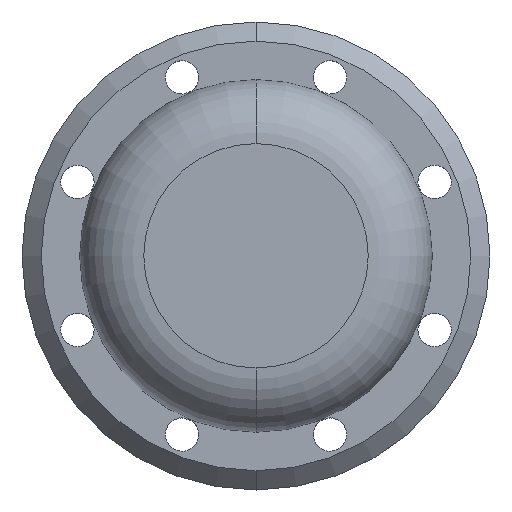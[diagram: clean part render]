
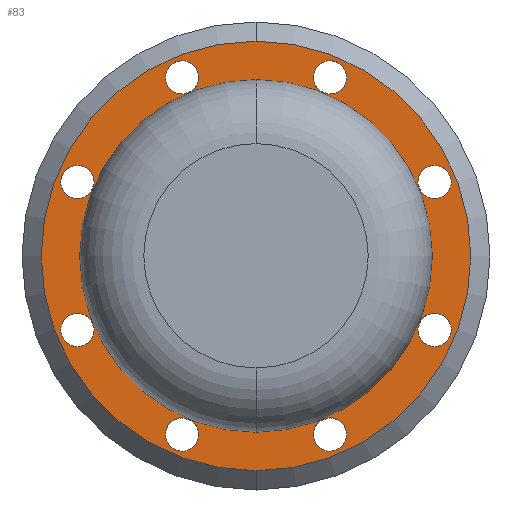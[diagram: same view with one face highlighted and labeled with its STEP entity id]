
A CAD part, top view. The second image highlights one B-rep face of the part: STEP entity #83.
In plain terms, the highlighted planar face has unit normal (0, 0, 1).
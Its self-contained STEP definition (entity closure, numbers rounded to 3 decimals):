
#27=FACE_BOUND('',#209,.F.);
#28=FACE_BOUND('',#210,.F.);
#29=FACE_BOUND('',#211,.F.);
#30=FACE_BOUND('',#212,.F.);
#31=FACE_BOUND('',#213,.F.);
#32=FACE_BOUND('',#214,.F.);
#33=FACE_BOUND('',#215,.F.);
#34=FACE_BOUND('',#216,.F.);
#35=FACE_BOUND('',#217,.F.);
#41=PLANE('',#1267);
#83=ADVANCED_FACE('',(#27,#28,#29,#30,#31,#32,#33,#34,#35,#146),#41,.T.);
#146=FACE_OUTER_BOUND('',#218,.F.);
#209=EDGE_LOOP('',(#347,#348));
#210=EDGE_LOOP('',(#349,#350));
#211=EDGE_LOOP('',(#351,#352));
#212=EDGE_LOOP('',(#353,#354));
#213=EDGE_LOOP('',(#355,#356));
#214=EDGE_LOOP('',(#357,#358));
#215=EDGE_LOOP('',(#359,#360));
#216=EDGE_LOOP('',(#361,#362));
#217=EDGE_LOOP('',(#363,#364));
#218=EDGE_LOOP('',(#365,#366));
#347=ORIENTED_EDGE('',*,*,#751,.T.);
#348=ORIENTED_EDGE('',*,*,#748,.T.);
#349=ORIENTED_EDGE('',*,*,#765,.T.);
#350=ORIENTED_EDGE('',*,*,#762,.T.);
#351=ORIENTED_EDGE('',*,*,#779,.T.);
#352=ORIENTED_EDGE('',*,*,#776,.T.);
#353=ORIENTED_EDGE('',*,*,#793,.T.);
#354=ORIENTED_EDGE('',*,*,#790,.T.);
#355=ORIENTED_EDGE('',*,*,#867,.T.);
#356=ORIENTED_EDGE('',*,*,#835,.T.);
#357=ORIENTED_EDGE('',*,*,#786,.T.);
#358=ORIENTED_EDGE('',*,*,#783,.T.);
#359=ORIENTED_EDGE('',*,*,#772,.T.);
#360=ORIENTED_EDGE('',*,*,#769,.T.);
#361=ORIENTED_EDGE('',*,*,#758,.T.);
#362=ORIENTED_EDGE('',*,*,#755,.T.);
#363=ORIENTED_EDGE('',*,*,#744,.T.);
#364=ORIENTED_EDGE('',*,*,#741,.T.);
#365=ORIENTED_EDGE('',*,*,#868,.F.);
#366=ORIENTED_EDGE('',*,*,#836,.F.);
#741=EDGE_CURVE('',#1130,#1129,#909,.T.);
#744=EDGE_CURVE('',#1129,#1130,#912,.T.);
#748=EDGE_CURVE('',#1123,#1122,#916,.T.);
#751=EDGE_CURVE('',#1122,#1123,#919,.T.);
#755=EDGE_CURVE('',#1117,#1116,#923,.T.);
#758=EDGE_CURVE('',#1116,#1117,#926,.T.);
#762=EDGE_CURVE('',#1111,#1110,#930,.T.);
#765=EDGE_CURVE('',#1110,#1111,#933,.T.);
#769=EDGE_CURVE('',#1105,#1104,#937,.T.);
#772=EDGE_CURVE('',#1104,#1105,#940,.T.);
#776=EDGE_CURVE('',#1098,#1097,#944,.T.);
#779=EDGE_CURVE('',#1097,#1098,#947,.T.);
#783=EDGE_CURVE('',#1092,#1091,#951,.T.);
#786=EDGE_CURVE('',#1091,#1092,#954,.T.);
#790=EDGE_CURVE('',#1086,#1085,#958,.T.);
#793=EDGE_CURVE('',#1085,#1086,#961,.T.);
#835=EDGE_CURVE('',#1044,#1043,#987,.T.);
#836=EDGE_CURVE('',#1042,#1041,#988,.T.);
#867=EDGE_CURVE('',#1043,#1044,#1003,.T.);
#868=EDGE_CURVE('',#1041,#1042,#1004,.T.);
#909=CIRCLE('',#1133,2.6);
#912=CIRCLE('',#1136,2.6);
#916=CIRCLE('',#1140,2.6);
#919=CIRCLE('',#1143,2.6);
#923=CIRCLE('',#1147,2.6);
#926=CIRCLE('',#1150,2.6);
#930=CIRCLE('',#1154,2.6);
#933=CIRCLE('',#1157,2.6);
#937=CIRCLE('',#1161,2.6);
#940=CIRCLE('',#1164,2.6);
#944=CIRCLE('',#1168,2.6);
#947=CIRCLE('',#1171,2.6);
#951=CIRCLE('',#1175,2.6);
#954=CIRCLE('',#1178,2.6);
#958=CIRCLE('',#1182,2.6);
#961=CIRCLE('',#1185,2.6);
#987=CIRCLE('',#1211,27.5);
#988=CIRCLE('',#1212,33.5);
#1003=CIRCLE('',#1227,27.5);
#1004=CIRCLE('',#1228,33.5);
#1041=VERTEX_POINT('',#1738);
#1042=VERTEX_POINT('',#1739);
#1043=VERTEX_POINT('',#1740);
#1044=VERTEX_POINT('',#1741);
#1085=VERTEX_POINT('',#1782);
#1086=VERTEX_POINT('',#1783);
#1091=VERTEX_POINT('',#1788);
#1092=VERTEX_POINT('',#1789);
#1097=VERTEX_POINT('',#1794);
#1098=VERTEX_POINT('',#1795);
#1104=VERTEX_POINT('',#1801);
#1105=VERTEX_POINT('',#1802);
#1110=VERTEX_POINT('',#1807);
#1111=VERTEX_POINT('',#1808);
#1116=VERTEX_POINT('',#1813);
#1117=VERTEX_POINT('',#1814);
#1122=VERTEX_POINT('',#1819);
#1123=VERTEX_POINT('',#1820);
#1129=VERTEX_POINT('',#1826);
#1130=VERTEX_POINT('',#1827);
#1133=AXIS2_PLACEMENT_3D('',#1828,#1317,#1318);
#1136=AXIS2_PLACEMENT_3D('',#1831,#1323,#1324);
#1140=AXIS2_PLACEMENT_3D('',#1835,#1331,#1332);
#1143=AXIS2_PLACEMENT_3D('',#1838,#1337,#1338);
#1147=AXIS2_PLACEMENT_3D('',#1842,#1345,#1346);
#1150=AXIS2_PLACEMENT_3D('',#1845,#1351,#1352);
#1154=AXIS2_PLACEMENT_3D('',#1849,#1359,#1360);
#1157=AXIS2_PLACEMENT_3D('',#1852,#1365,#1366);
#1161=AXIS2_PLACEMENT_3D('',#1856,#1373,#1374);
#1164=AXIS2_PLACEMENT_3D('',#1859,#1379,#1380);
#1168=AXIS2_PLACEMENT_3D('',#1863,#1387,#1388);
#1171=AXIS2_PLACEMENT_3D('',#1866,#1393,#1394);
#1175=AXIS2_PLACEMENT_3D('',#1870,#1401,#1402);
#1178=AXIS2_PLACEMENT_3D('',#1873,#1407,#1408);
#1182=AXIS2_PLACEMENT_3D('',#1877,#1415,#1416);
#1185=AXIS2_PLACEMENT_3D('',#1880,#1421,#1422);
#1211=AXIS2_PLACEMENT_3D('',#1962,#1481,#1482);
#1212=AXIS2_PLACEMENT_3D('',#1963,#1483,#1484);
#1227=AXIS2_PLACEMENT_3D('',#1994,#1529,#1530);
#1228=AXIS2_PLACEMENT_3D('',#1995,#1531,#1532);
#1267=AXIS2_PLACEMENT_3D('',#2052,#1627,#1628);
#1317=DIRECTION('',(0.,0.,1.));
#1318=DIRECTION('',(-0.924,0.383,0.));
#1323=DIRECTION('',(0.,0.,1.));
#1324=DIRECTION('',(0.924,-0.383,0.));
#1331=DIRECTION('',(0.,0.,1.));
#1332=DIRECTION('',(-0.383,0.924,0.));
#1337=DIRECTION('',(0.,0.,1.));
#1338=DIRECTION('',(0.383,-0.924,0.));
#1345=DIRECTION('',(0.,0.,1.));
#1346=DIRECTION('',(0.383,0.924,0.));
#1351=DIRECTION('',(0.,0.,1.));
#1352=DIRECTION('',(-0.383,-0.924,0.));
#1359=DIRECTION('',(0.,0.,1.));
#1360=DIRECTION('',(0.924,0.383,0.));
#1365=DIRECTION('',(0.,0.,1.));
#1366=DIRECTION('',(-0.924,-0.383,0.));
#1373=DIRECTION('',(0.,0.,1.));
#1374=DIRECTION('',(0.924,-0.383,0.));
#1379=DIRECTION('',(0.,0.,1.));
#1380=DIRECTION('',(-0.924,0.383,0.));
#1387=DIRECTION('',(0.,0.,1.));
#1388=DIRECTION('',(0.383,-0.924,0.));
#1393=DIRECTION('',(0.,0.,1.));
#1394=DIRECTION('',(-0.383,0.924,0.));
#1401=DIRECTION('',(0.,0.,1.));
#1402=DIRECTION('',(-0.383,-0.924,0.));
#1407=DIRECTION('',(0.,0.,1.));
#1408=DIRECTION('',(0.383,0.924,0.));
#1415=DIRECTION('',(0.,0.,1.));
#1416=DIRECTION('',(-0.924,-0.383,0.));
#1421=DIRECTION('',(0.,0.,1.));
#1422=DIRECTION('',(0.924,0.383,0.));
#1481=DIRECTION('',(0.,0.,1.));
#1482=DIRECTION('',(0.,-1.,0.));
#1483=DIRECTION('',(0.,0.,1.));
#1484=DIRECTION('',(0.,-1.,0.));
#1529=DIRECTION('',(0.,0.,1.));
#1530=DIRECTION('',(0.,1.,0.));
#1531=DIRECTION('',(0.,0.,1.));
#1532=DIRECTION('',(0.,1.,0.));
#1627=DIRECTION('',(0.,0.,1.));
#1628=DIRECTION('',(1.,0.,0.));
#1738=CARTESIAN_POINT('',(284.375,452.752,628.584));
#1739=CARTESIAN_POINT('',(284.375,385.752,628.584));
#1740=CARTESIAN_POINT('',(284.375,446.752,628.584));
#1741=CARTESIAN_POINT('',(284.375,391.752,628.584));
#1782=CARTESIAN_POINT('',(298.315,392.392,628.584));
#1783=CARTESIAN_POINT('',(293.511,390.402,628.584));
#1788=CARTESIAN_POINT('',(313.225,410.116,628.584));
#1789=CARTESIAN_POINT('',(311.235,405.312,628.584));
#1794=CARTESIAN_POINT('',(311.235,433.192,628.584));
#1795=CARTESIAN_POINT('',(313.225,428.388,628.584));
#1801=CARTESIAN_POINT('',(293.511,448.102,628.584));
#1802=CARTESIAN_POINT('',(298.315,446.112,628.584));
#1807=CARTESIAN_POINT('',(270.435,446.112,628.584));
#1808=CARTESIAN_POINT('',(275.239,448.102,628.584));
#1813=CARTESIAN_POINT('',(255.525,428.388,628.584));
#1814=CARTESIAN_POINT('',(257.515,433.192,628.584));
#1819=CARTESIAN_POINT('',(257.515,405.312,628.584));
#1820=CARTESIAN_POINT('',(255.525,410.116,628.584));
#1826=CARTESIAN_POINT('',(275.239,390.402,628.584));
#1827=CARTESIAN_POINT('',(270.435,392.392,628.584));
#1828=CARTESIAN_POINT('',(272.837,391.397,628.584));
#1831=CARTESIAN_POINT('',(272.837,391.397,628.584));
#1835=CARTESIAN_POINT('',(256.52,407.714,628.584));
#1838=CARTESIAN_POINT('',(256.52,407.714,628.584));
#1842=CARTESIAN_POINT('',(256.52,430.79,628.584));
#1845=CARTESIAN_POINT('',(256.52,430.79,628.584));
#1849=CARTESIAN_POINT('',(272.837,447.107,628.584));
#1852=CARTESIAN_POINT('',(272.837,447.107,628.584));
#1856=CARTESIAN_POINT('',(295.913,447.107,628.584));
#1859=CARTESIAN_POINT('',(295.913,447.107,628.584));
#1863=CARTESIAN_POINT('',(312.23,430.79,628.584));
#1866=CARTESIAN_POINT('',(312.23,430.79,628.584));
#1870=CARTESIAN_POINT('',(312.23,407.714,628.584));
#1873=CARTESIAN_POINT('',(312.23,407.714,628.584));
#1877=CARTESIAN_POINT('',(295.913,391.397,628.584));
#1880=CARTESIAN_POINT('',(295.913,391.397,628.584));
#1962=CARTESIAN_POINT('',(284.375,419.252,628.584));
#1963=CARTESIAN_POINT('',(284.375,419.252,628.584));
#1994=CARTESIAN_POINT('',(284.375,419.252,628.584));
#1995=CARTESIAN_POINT('',(284.375,419.252,628.584));
#2052=CARTESIAN_POINT('',(250.205,385.082,628.584));
